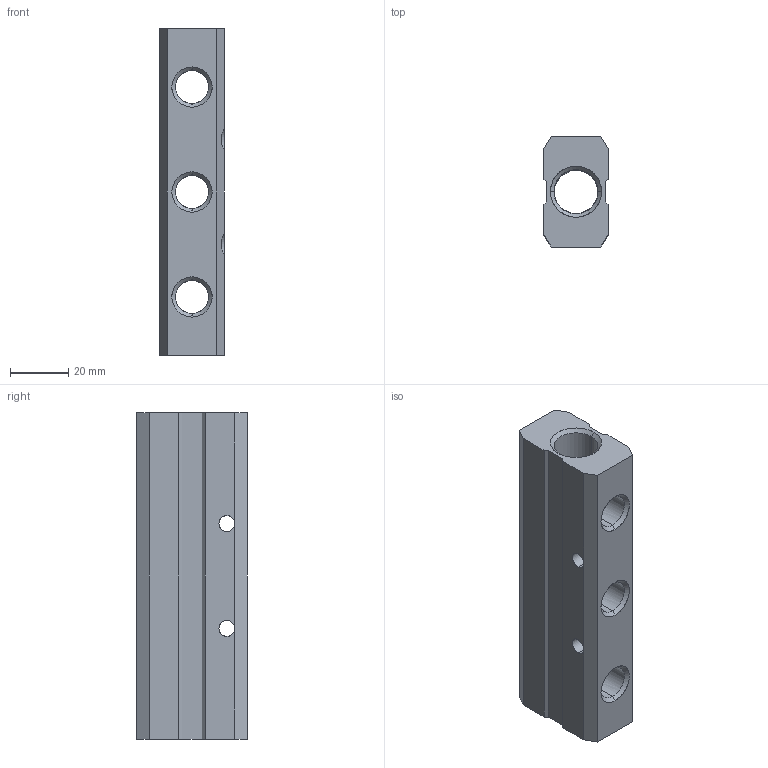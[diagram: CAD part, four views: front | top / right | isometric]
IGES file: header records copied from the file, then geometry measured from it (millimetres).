
Start section: SolidWorks IGES file using analytic representation for surfaces
Global section: file name: K:\Disegni Esecutivi\ACCESSORI\6048\ASSIEMI_.IGES_6048\060480011BD00A.igs; native system: SolidWorks 2016; preprocessor: SolidWorks 2016; author: cad01; date: 181116.144940; units: millimetre
Bounding box: 22 x 38 x 112 mm (x, y, z)
Surface area: 21352.9 mm2 (no closed solid volume)
Topology: 0 solids, 0 shells, 64 faces, 1432 edges, 1432 vertices
Faces by surface type: revolution 42, bspline 22
